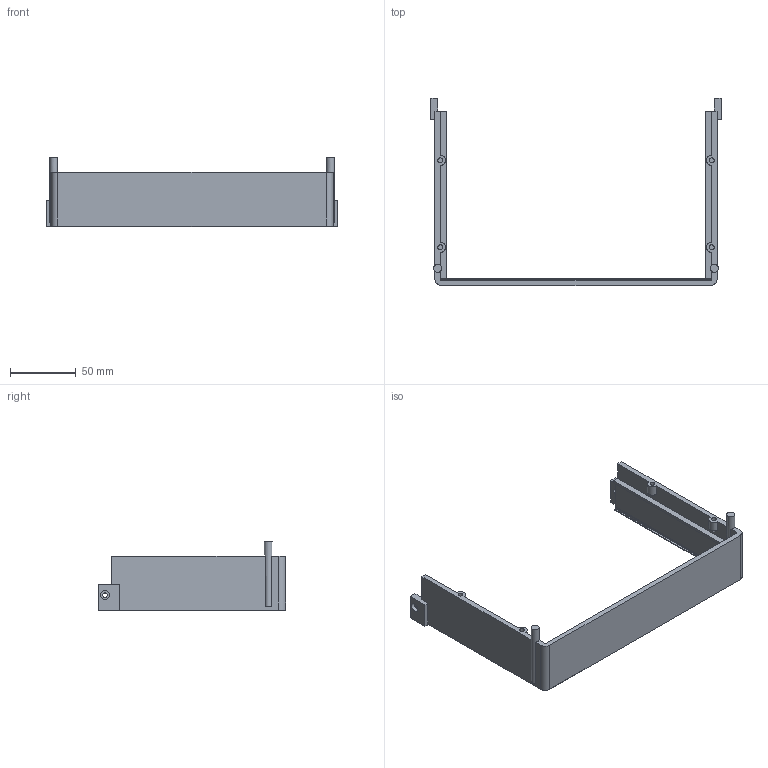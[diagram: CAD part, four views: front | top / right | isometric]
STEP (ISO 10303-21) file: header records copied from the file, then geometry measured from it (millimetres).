
FILE_DESCRIPTION(('Open CASCADE Model'),'2;1');
FILE_NAME('Open CASCADE Shape Model','2026-11-10T17:01:23',('Author'),( 'Open CASCADE'),'Open CASCADE STEP processor 7.9','Open CASCADE 7.9' ,'Unknown');
FILE_SCHEMA(('AUTOMOTIVE_DESIGN { 1 0 10303 214 1 1 1 1 }'));
Length unit declared in the file: millimetre
Products named in the file (2): T04_Lower_sensor_base; 01_Lower_sensor_base
Assembly tree (1 placements, depth 2):
  T04_Lower_sensor_base
    01_Lower_sensor_base
Bounding box: 220.4 x 142 x 53 mm (x, y, z)
Volume: 102984.7 mm3; surface area: 49477.1 mm2
Topology: 1 solids, 1 shells, 106 faces, 289 edges, 192 vertices
Faces by surface type: plane 82, cylinder 18, cone 6
Full cylindrical faces by diameter (mm): 3.4 x2, 3.7 x4, 6 x2, 6.7 x2
Entity records: 7200 total; most frequent: CARTESIAN_POINT 1293, DIRECTION 1120, LINE 753, VECTOR 753, ORIENTED_EDGE 578, PCURVE 578, DEFINITIONAL_REPRESENTATION 578, EDGE_CURVE 289
